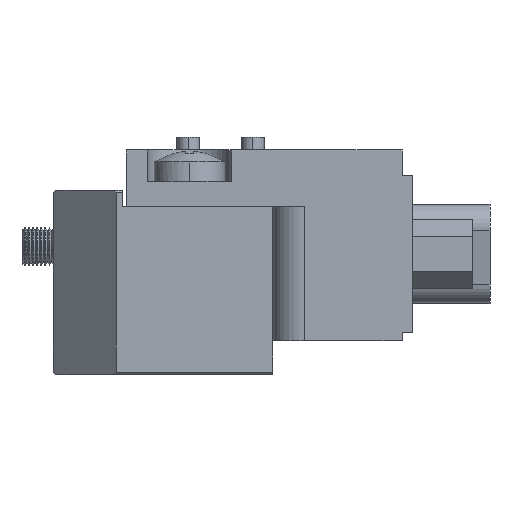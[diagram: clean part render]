
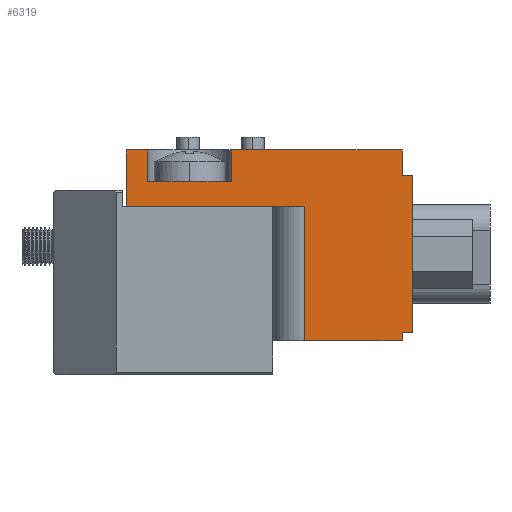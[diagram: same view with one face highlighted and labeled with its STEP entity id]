
A CAD part, left-side view. The second image highlights one B-rep face of the part: STEP entity #6319.
In plain terms, the highlighted planar face has unit normal (-1, 0, 0).
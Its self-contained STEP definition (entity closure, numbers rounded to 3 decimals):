
#287 = VERTEX_POINT ( 'NONE', #1401 ) ;
#379 = CARTESIAN_POINT ( 'NONE',  ( -15.15, 10.35, -1. ) ) ;
#383 = DIRECTION ( 'NONE',  ( 0., 0., 1. ) ) ;
#435 = CARTESIAN_POINT ( 'NONE',  ( -15.15, 10.35, -16.2 ) ) ;
#578 = FACE_OUTER_BOUND ( 'NONE', #14163, .T. ) ;
#589 = DIRECTION ( 'NONE',  ( 0., 0., 1. ) ) ;
#884 = LINE ( 'NONE', #14173, #19192 ) ;
#1171 = VERTEX_POINT ( 'NONE', #15576 ) ;
#1401 = CARTESIAN_POINT ( 'NONE',  ( -15.15, -11.65, -3.04 ) ) ;
#1501 = CARTESIAN_POINT ( 'NONE',  ( -15.15, 8.65, -1. ) ) ;
#1683 = VECTOR ( 'NONE', #8036, 1000. ) ;
#1722 = VECTOR ( 'NONE', #1885, 1000. ) ;
#1729 = DIRECTION ( 'NONE',  ( 0., 1., 0. ) ) ;
#1772 = LINE ( 'NONE', #3449, #5751 ) ;
#1885 = DIRECTION ( 'NONE',  ( 0., 1., 0. ) ) ;
#1894 = CARTESIAN_POINT ( 'NONE',  ( -15.15, 6.204, -3.5 ) ) ;
#2200 = LINE ( 'NONE', #19881, #6726 ) ;
#2249 = CARTESIAN_POINT ( 'NONE',  ( -15.15, 10.35, -1. ) ) ;
#2524 = CARTESIAN_POINT ( 'NONE',  ( -15.15, -3.85, -5.5 ) ) ;
#2619 = VERTEX_POINT ( 'NONE', #10210 ) ;
#2716 = LINE ( 'NONE', #435, #21069 ) ;
#3001 = LINE ( 'NONE', #20039, #3274 ) ;
#3274 = VECTOR ( 'NONE', #19893, 1000. ) ;
#3306 = VERTEX_POINT ( 'NONE', #5848 ) ;
#3449 = CARTESIAN_POINT ( 'NONE',  ( -15.15, -11.65, -15.54 ) ) ;
#3603 = DIRECTION ( 'NONE',  ( 0., 0., 1. ) ) ;
#3604 = VERTEX_POINT ( 'NONE', #2524 ) ;
#3808 = DIRECTION ( 'NONE',  ( 0., 1., 0. ) ) ;
#4328 = LINE ( 'NONE', #1501, #4627 ) ;
#4445 = CARTESIAN_POINT ( 'NONE',  ( -15.15, -11.65, -15.54 ) ) ;
#4627 = VECTOR ( 'NONE', #1729, 1000. ) ;
#4634 = LINE ( 'NONE', #13884, #9261 ) ;
#4868 = VECTOR ( 'NONE', #5821, 1000. ) ;
#4883 = LINE ( 'NONE', #7030, #4868 ) ;
#4934 = VECTOR ( 'NONE', #3808, 1000. ) ;
#5161 = DIRECTION ( 'NONE',  ( 0., 1., 0. ) ) ;
#5238 = CARTESIAN_POINT ( 'NONE',  ( -15.15, -1.35, -5.5 ) ) ;
#5328 = CARTESIAN_POINT ( 'NONE',  ( -15.15, -12.45, -16.2 ) ) ;
#5547 = VERTEX_POINT ( 'NONE', #12232 ) ;
#5751 = VECTOR ( 'NONE', #5161, 1000. ) ;
#5821 = DIRECTION ( 'NONE',  ( 0., -1., 0. ) ) ;
#5837 = VERTEX_POINT ( 'NONE', #20402 ) ;
#5848 = CARTESIAN_POINT ( 'NONE',  ( -15.15, -12.45, -3.04 ) ) ;
#5962 = ORIENTED_EDGE ( 'NONE', *, *, #12163, .F. ) ;
#6319 = ADVANCED_FACE ( 'NONE', ( #578 ), #6932, .T. ) ;
#6455 = ORIENTED_EDGE ( 'NONE', *, *, #9573, .T. ) ;
#6501 = DIRECTION ( 'NONE',  ( 0., 0., 1. ) ) ;
#6537 = LINE ( 'NONE', #18326, #14817 ) ;
#6553 = DIRECTION ( 'NONE',  ( -1., 0., 0. ) ) ;
#6723 = CARTESIAN_POINT ( 'NONE',  ( -15.15, 8.65, -16.2 ) ) ;
#6726 = VECTOR ( 'NONE', #383, 1000. ) ;
#6735 = CARTESIAN_POINT ( 'NONE',  ( -15.15, 8.65, -16.2 ) ) ;
#6807 = DIRECTION ( 'NONE',  ( 0., 0., -1. ) ) ;
#6877 = DIRECTION ( 'NONE',  ( 0., 0., 1. ) ) ;
#6932 = PLANE ( 'NONE',  #13756 ) ;
#7030 = CARTESIAN_POINT ( 'NONE',  ( -15.15, 8.65, -5.5 ) ) ;
#7541 = DIRECTION ( 'NONE',  ( 0., -1., 0. ) ) ;
#7578 = CARTESIAN_POINT ( 'NONE',  ( -15.15, 8.65, -3.5 ) ) ;
#8036 = DIRECTION ( 'NONE',  ( 0., 1., 0. ) ) ;
#8504 = LINE ( 'NONE', #10314, #13744 ) ;
#8704 = EDGE_CURVE ( 'NONE', #9052, #16943, #4883, .T. ) ;
#8745 = CARTESIAN_POINT ( 'NONE',  ( -15.15, 8.65, -16.2 ) ) ;
#8806 = EDGE_CURVE ( 'NONE', #22323, #22585, #4328, .T. ) ;
#8853 = VECTOR ( 'NONE', #3603, 1000. ) ;
#8945 = EDGE_CURVE ( 'NONE', #3604, #1171, #3001, .T. ) ;
#9052 = VERTEX_POINT ( 'NONE', #20574 ) ;
#9191 = ORIENTED_EDGE ( 'NONE', *, *, #21353, .F. ) ;
#9261 = VECTOR ( 'NONE', #14135, 1000. ) ;
#9395 = LINE ( 'NONE', #5328, #8853 ) ;
#9573 = EDGE_CURVE ( 'NONE', #1171, #5547, #13450, .T. ) ;
#9706 = VECTOR ( 'NONE', #6807, 1000. ) ;
#10029 = CARTESIAN_POINT ( 'NONE',  ( -15.15, 8.65, -1. ) ) ;
#10078 = EDGE_CURVE ( 'NONE', #16943, #3604, #884, .T. ) ;
#10210 = CARTESIAN_POINT ( 'NONE',  ( -15.15, 1.95, -3.5 ) ) ;
#10250 = ORIENTED_EDGE ( 'NONE', *, *, #12816, .F. ) ;
#10314 = CARTESIAN_POINT ( 'NONE',  ( -15.15, 1.95, -16.2 ) ) ;
#10346 = EDGE_CURVE ( 'NONE', #287, #3306, #4634, .T. ) ;
#10733 = EDGE_CURVE ( 'NONE', #17634, #19767, #20572, .T. ) ;
#10863 = LINE ( 'NONE', #7578, #1683 ) ;
#11044 = VECTOR ( 'NONE', #15080, 1000. ) ;
#11191 = CARTESIAN_POINT ( 'NONE',  ( -15.15, -11.65, -1. ) ) ;
#11664 = EDGE_CURVE ( 'NONE', #2619, #21978, #10863, .T. ) ;
#12163 = EDGE_CURVE ( 'NONE', #9052, #22585, #2716, .T. ) ;
#12232 = CARTESIAN_POINT ( 'NONE',  ( -15.15, -11.65, -16.2 ) ) ;
#12337 = ORIENTED_EDGE ( 'NONE', *, *, #11664, .T. ) ;
#12407 = VERTEX_POINT ( 'NONE', #4445 ) ;
#12816 = EDGE_CURVE ( 'NONE', #22323, #5837, #19358, .T. ) ;
#12903 = VECTOR ( 'NONE', #7541, 1000. ) ;
#12920 = DIRECTION ( 'NONE',  ( 0., 0., -1. ) ) ;
#13450 = LINE ( 'NONE', #8745, #12903 ) ;
#13514 = EDGE_CURVE ( 'NONE', #22894, #3306, #9395, .T. ) ;
#13744 = VECTOR ( 'NONE', #6877, 1000. ) ;
#13756 = AXIS2_PLACEMENT_3D ( 'NONE', #6723, #6553, #6501 ) ;
#13859 = EDGE_CURVE ( 'NONE', #18702, #5837, #15759, .T. ) ;
#13884 = CARTESIAN_POINT ( 'NONE',  ( -15.15, -11.65, -3.04 ) ) ;
#14135 = DIRECTION ( 'NONE',  ( 0., -1., 0. ) ) ;
#14163 = EDGE_LOOP ( 'NONE', ( #15267, #22029, #6455, #17114, #14214, #20284, #18933, #22024, #15296, #9191, #12337, #21514, #20812, #10250, #20446, #5962, #15054 ) ) ;
#14173 = CARTESIAN_POINT ( 'NONE',  ( -15.15, 8.65, -5.5 ) ) ;
#14214 = ORIENTED_EDGE ( 'NONE', *, *, #21901, .F. ) ;
#14244 = DIRECTION ( 'NONE',  ( 0., -1., 0. ) ) ;
#14817 = VECTOR ( 'NONE', #12920, 1000. ) ;
#15054 = ORIENTED_EDGE ( 'NONE', *, *, #8704, .T. ) ;
#15080 = DIRECTION ( 'NONE',  ( 0., 1., 0. ) ) ;
#15267 = ORIENTED_EDGE ( 'NONE', *, *, #10078, .T. ) ;
#15296 = ORIENTED_EDGE ( 'NONE', *, *, #10733, .T. ) ;
#15576 = CARTESIAN_POINT ( 'NONE',  ( -15.15, -3.85, -16.2 ) ) ;
#15658 = EDGE_CURVE ( 'NONE', #21978, #18702, #18606, .T. ) ;
#15759 = LINE ( 'NONE', #16933, #11044 ) ;
#16933 = CARTESIAN_POINT ( 'NONE',  ( -15.15, 8.65, -3.5 ) ) ;
#16943 = VERTEX_POINT ( 'NONE', #5238 ) ;
#17114 = ORIENTED_EDGE ( 'NONE', *, *, #22124, .F. ) ;
#17518 = EDGE_CURVE ( 'NONE', #287, #17634, #2200, .T. ) ;
#17634 = VERTEX_POINT ( 'NONE', #11191 ) ;
#18326 = CARTESIAN_POINT ( 'NONE',  ( -15.15, -11.65, -16.2 ) ) ;
#18606 = LINE ( 'NONE', #21610, #4934 ) ;
#18702 = VERTEX_POINT ( 'NONE', #1894 ) ;
#18933 = ORIENTED_EDGE ( 'NONE', *, *, #10346, .F. ) ;
#19192 = VECTOR ( 'NONE', #14244, 1000. ) ;
#19358 = LINE ( 'NONE', #6735, #9706 ) ;
#19473 = CARTESIAN_POINT ( 'NONE',  ( -15.15, -12.45, -15.54 ) ) ;
#19767 = VERTEX_POINT ( 'NONE', #23026 ) ;
#19881 = CARTESIAN_POINT ( 'NONE',  ( -15.15, -11.65, -16.2 ) ) ;
#19893 = DIRECTION ( 'NONE',  ( 0., 0., -1. ) ) ;
#20039 = CARTESIAN_POINT ( 'NONE',  ( -15.15, -3.85, -16.2 ) ) ;
#20284 = ORIENTED_EDGE ( 'NONE', *, *, #13514, .T. ) ;
#20402 = CARTESIAN_POINT ( 'NONE',  ( -15.15, 8.65, -3.5 ) ) ;
#20446 = ORIENTED_EDGE ( 'NONE', *, *, #8806, .T. ) ;
#20572 = LINE ( 'NONE', #2249, #1722 ) ;
#20574 = CARTESIAN_POINT ( 'NONE',  ( -15.15, 10.35, -5.5 ) ) ;
#20812 = ORIENTED_EDGE ( 'NONE', *, *, #13859, .T. ) ;
#21069 = VECTOR ( 'NONE', #589, 1000. ) ;
#21353 = EDGE_CURVE ( 'NONE', #2619, #19767, #8504, .T. ) ;
#21514 = ORIENTED_EDGE ( 'NONE', *, *, #15658, .T. ) ;
#21526 = CARTESIAN_POINT ( 'NONE',  ( -15.15, 4.396, -3.5 ) ) ;
#21610 = CARTESIAN_POINT ( 'NONE',  ( -15.15, 8.65, -3.5 ) ) ;
#21901 = EDGE_CURVE ( 'NONE', #22894, #12407, #1772, .T. ) ;
#21978 = VERTEX_POINT ( 'NONE', #21526 ) ;
#22024 = ORIENTED_EDGE ( 'NONE', *, *, #17518, .T. ) ;
#22029 = ORIENTED_EDGE ( 'NONE', *, *, #8945, .T. ) ;
#22124 = EDGE_CURVE ( 'NONE', #12407, #5547, #6537, .T. ) ;
#22323 = VERTEX_POINT ( 'NONE', #10029 ) ;
#22585 = VERTEX_POINT ( 'NONE', #379 ) ;
#22894 = VERTEX_POINT ( 'NONE', #19473 ) ;
#23026 = CARTESIAN_POINT ( 'NONE',  ( -15.15, 1.95, -1. ) ) ;
